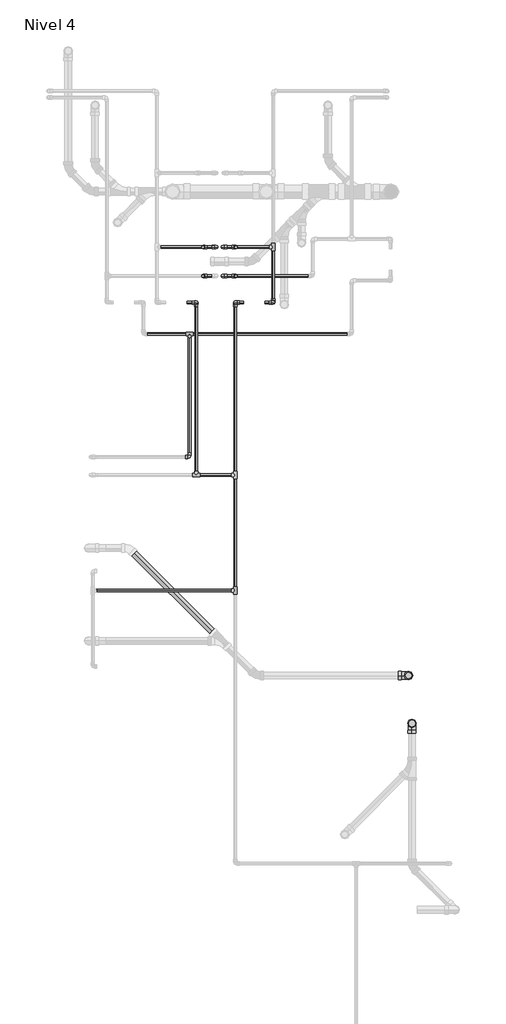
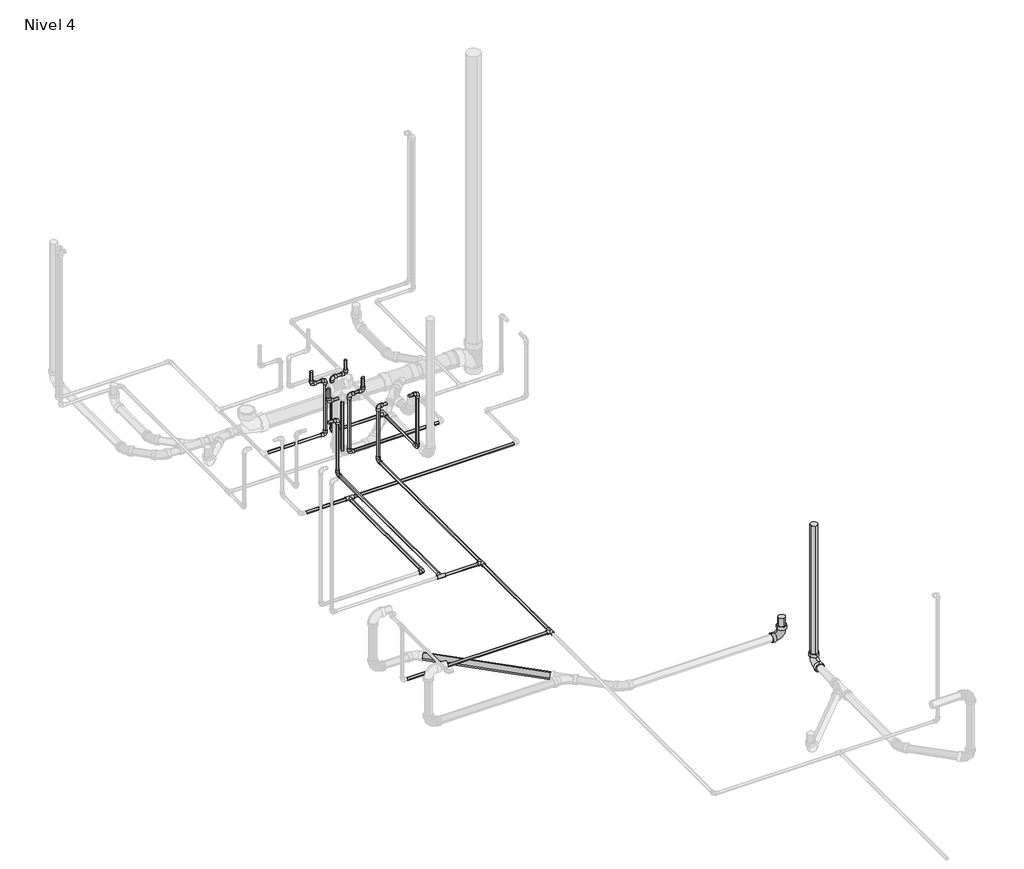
# One storey, part 7 of 9: 33 pipe segments, 24 pipe fittings.
"""IFC4 building model written with IfcOpenShell, lengths in millimetres."""

from ifc_helpers import new_model, si_unit, point, frame, frame_2d, origin, place, context, project, spatial, circle_curve, trimmed, segment, composite_curve, outline, extrude, transform, mapped, element, save
from components import pipe_fitting_ab418b84, m_codo_pvc_serie_40_9ad74631, m_codo_pvc_serie_40_ba05d404, m_codo_pvc_serie_40_dwv1_5c0ec739

model = new_model("IFC4")

# Units and contexts
model_context = context("Model", 3, world=origin())
ifc_project = project(units=[si_unit("LENGTHUNIT", "METRE", prefix="MILLI")], contexts=[model_context])

# Site, building, storey
site = spatial("IfcSite", under=ifc_project)
building = spatial("IfcBuilding", under=site)
storey = spatial("IfcBuildingStorey", under=building, Name="Nivel 4", Elevation=8100.0)

# Pipe fittings
placement = place(None, origin())
pipe_fitting_shape = pipe_fitting_ab418b84(model_context)
element("IfcPipeFitting", 1, ObjectType="M_Te - PVC - Serie 40 : Estándar", at=placement, inside=storey, context=model_context, shape_type="MappedRepresentation", body=[
    mapped(pipe_fitting_shape, transform((4584.5674476, 13135.047678, 8050.0), x_axis=(0.0, -1.0, 0.0), y_axis=(1.0, 0.0, 0.0), z_axis=(0.0, 0.0, 1.0))),
])
element("IfcPipeFitting", 2, ObjectType="M_Te - PVC - Serie 40 : Estándar", at=placement, inside=storey, context=model_context, shape_type="MappedRepresentation", body=[
    mapped(pipe_fitting_shape, transform((4263.6339186, 14079.2433012, 8050.0), x_axis=(1.0, 0.0, 0.0), y_axis=(0.0, -1.0, 0.0), z_axis=(0.0, 0.0, -1.0))),
])
element("IfcPipeFitting", 3, ObjectType="M_Te - PVC - Serie 40 : Estándar", at=placement, inside=storey, context=model_context, shape_type="MappedRepresentation", body=[
    mapped(pipe_fitting_shape, transform((4584.5674476, 14079.2433012, 8050.0), x_axis=(0.0, 1.0, 0.0), y_axis=(1.0, 0.0, 0.0), z_axis=(0.0, 0.0, -1.0))),
])
element("IfcPipeFitting", 4, ObjectType="M_Te - PVC - Serie 40 : Estándar", at=placement, inside=storey, context=model_context, shape_type="MappedRepresentation", body=[
    mapped(pipe_fitting_shape, transform((4894.5674476, 15948.3784167, 8050.0), x_axis=(0.0, -1.0, 0.0), y_axis=(1.0, 0.0, 0.0), z_axis=(0.0, 0.0, 1.0))),
])
element("IfcPipeFitting", 5, ObjectType="M_Te - PVC - Serie 40 : Estándar", at=placement, inside=storey, context=model_context, shape_type="MappedRepresentation", body=[
    mapped(pipe_fitting_shape, transform((4209.5674476, 15236.3878958, 8020.0), x_axis=(1.0, 0.0, 0.0), y_axis=(0.0, 1.0, 0.0), z_axis=(0.0, 0.0, 1.0))),
])
m_codo_pvc_serie_40_shape = m_codo_pvc_serie_40_9ad74631(model_context)
element("IfcPipeFitting", 6, ObjectType="M_Codo - PVC - Serie 40 : Estándar", at=placement, inside=storey, context=model_context, shape_type="MappedRepresentation", body=[
    mapped(m_codo_pvc_serie_40_shape, transform((4320.052369, 15948.3784167, 8500.0), x_axis=(0.0, 0.0, -1.0), y_axis=(1.0, 0.0, 0.0), z_axis=(0.0, -1.0, 0.0))),
])
element("IfcPipeFitting", 7, ObjectType="M_Codo - PVC - Serie 40 : Estándar", at=placement, inside=storey, context=model_context, shape_type="MappedRepresentation", body=[
    mapped(m_codo_pvc_serie_40_shape, transform((4428.802369, 15948.3784167, 8500.0), x_axis=(1.0, 0.0, 0.0), y_axis=(0.0, 0.0, -1.0), z_axis=(0.0, 1.0, 0.0))),
])
element("IfcPipeFitting", 8, ObjectType="M_Codo - PVC - Serie 40 : Estándar", at=placement, inside=storey, context=model_context, shape_type="MappedRepresentation", body=[
    mapped(m_codo_pvc_serie_40_shape, transform((4428.802369, 15948.3784167, 8050.0), x_axis=(0.0, 0.0, -1.0), y_axis=(-1.0, 0.0, 0.0), z_axis=(0.0, 1.0, 0.0))),
])
element("IfcPipeFitting", 9, ObjectType="M_Codo - PVC - Serie 40 : Estándar", at=placement, inside=storey, context=model_context, shape_type="MappedRepresentation", body=[
    mapped(m_codo_pvc_serie_40_shape, transform((4263.6339186, 15493.3784167, 8050.0), x_axis=(0.0, 0.0, -1.0), y_axis=(0.0, -1.0, 0.0), z_axis=(-1.0, 0.0, 0.0))),
])
element("IfcPipeFitting", 10, ObjectType="M_Codo - PVC - Serie 40 : Estándar", at=placement, inside=storey, context=model_context, shape_type="MappedRepresentation", body=[
    mapped(m_codo_pvc_serie_40_shape, transform((4584.5674476, 15493.3784167, 8050.0), x_axis=(0.0, 1.0, 0.0), y_axis=(0.0, 0.0, 1.0), z_axis=(1.0, 0.0, 0.0))),
])
element("IfcPipeFitting", 11, ObjectType="M_Codo - PVC - Serie 40 : Estándar", at=placement, inside=storey, context=model_context, shape_type="MappedRepresentation", body=[
    mapped(m_codo_pvc_serie_40_shape, transform((4584.5674476, 15493.3784167, 8500.0), x_axis=(0.0, 0.0, 1.0), y_axis=(1.0, 0.0, 0.0), z_axis=(0.0, 1.0, 0.0))),
])
element("IfcPipeFitting", 12, ObjectType="M_Codo - PVC - Serie 40 : Estándar", at=placement, inside=storey, context=model_context, shape_type="MappedRepresentation", body=[
    mapped(m_codo_pvc_serie_40_shape, transform((4894.5674476, 15493.3784167, 8500.0), x_axis=(1.0, 0.0, 0.0), y_axis=(0.0, 0.0, -1.0), z_axis=(0.0, 1.0, 0.0))),
])
element("IfcPipeFitting", 13, ObjectType="M_Codo - PVC - Serie 40 : Estándar", at=placement, inside=storey, context=model_context, shape_type="MappedRepresentation", body=[
    mapped(m_codo_pvc_serie_40_shape, transform((4894.5674476, 15493.3784167, 8050.0), x_axis=(0.0, 0.0, -1.0), y_axis=(0.0, 1.0, 0.0), z_axis=(1.0, 0.0, 0.0))),
])
element("IfcPipeFitting", 14, ObjectType="M_Codo - PVC - Serie 40 : Estándar", at=placement, inside=storey, context=model_context, shape_type="MappedRepresentation", body=[
    mapped(m_codo_pvc_serie_40_shape, transform((4263.6339186, 15493.3784167, 8500.0), x_axis=(0.0, 0.0, 1.0), y_axis=(-1.0, 0.0, 0.0), z_axis=(0.0, -1.0, 0.0))),
])
element("IfcPipeFitting", 15, ObjectType="M_Codo - PVC - Serie 40 : Estándar", at=placement, inside=storey, context=model_context, shape_type="MappedRepresentation", body=[
    mapped(m_codo_pvc_serie_40_shape, transform((4589.8538958, 15948.3784167, 8500.0), x_axis=(0.0, 0.0, -1.0), y_axis=(-1.0, 0.0, 0.0), z_axis=(0.0, 1.0, 0.0))),
])
element("IfcPipeFitting", 16, ObjectType="M_Codo - PVC - Serie 40 : Estándar", at=placement, inside=storey, context=model_context, shape_type="MappedRepresentation", body=[
    mapped(m_codo_pvc_serie_40_shape, transform((4482.3538958, 15948.3784167, 8500.0), x_axis=(-1.0, 0.0, 0.0), y_axis=(0.0, 0.0, -1.0), z_axis=(0.0, -1.0, 0.0))),
])
element("IfcPipeFitting", 17, ObjectType="M_Codo - PVC - Serie 40 : Estándar", at=placement, inside=storey, context=model_context, shape_type="MappedRepresentation", body=[
    mapped(m_codo_pvc_serie_40_shape, transform((4482.3538958, 15948.3784167, 8050.0), x_axis=(0.0, 0.0, -1.0), y_axis=(1.0, 0.0, 0.0), z_axis=(0.0, -1.0, 0.0))),
])
element("IfcPipeFitting", 18, ObjectType="M_Codo - PVC - Serie 40 : Estándar", at=placement, inside=storey, context=model_context, shape_type="MappedRepresentation", body=[
    mapped(m_codo_pvc_serie_40_shape, transform((4209.5674476, 14229.2433012, 8020.0), x_axis=(1.0, 0.0, 0.0), y_axis=(0.0, 1.0, 0.0), z_axis=(0.0, 0.0, 1.0))),
])
element("IfcPipeFitting", 19, ObjectType="M_Codo - PVC - Serie 40 : Estándar", at=placement, inside=storey, context=model_context, shape_type="MappedRepresentation", body=[
    mapped(m_codo_pvc_serie_40_shape, transform((4482.3538958, 15711.6215833, 8020.0), x_axis=(0.0, 0.0, -1.0), y_axis=(1.0, 0.0, 0.0), z_axis=(0.0, -1.0, 0.0))),
])
m_codo_pvc_serie_40_2_shape = m_codo_pvc_serie_40_ba05d404(model_context)
element("IfcPipeFitting", 20, ObjectType="M_Codo - PVC - Serie 40 : Estándar", at=placement, inside=storey, context=model_context, shape_type="MappedRepresentation", body=[
    mapped(m_codo_pvc_serie_40_2_shape, transform((4589.8538958, 15711.6215833, 8500.0), x_axis=(0.0, 0.0, -1.0), y_axis=(1.0, 0.0, 0.0), z_axis=(0.0, -1.0, 0.0))),
])
element("IfcPipeFitting", 21, ObjectType="M_Codo - PVC - Serie 40 : Estándar", at=placement, inside=storey, context=model_context, shape_type="MappedRepresentation", body=[
    mapped(m_codo_pvc_serie_40_2_shape, transform((4482.3538958, 15711.6215833, 8500.0), x_axis=(-1.0, 0.0, 0.0), y_axis=(0.0, 0.0, 1.0), z_axis=(0.0, 1.0, 0.0))),
])
element("IfcPipeFitting", 22, ObjectType="M_Codo - PVC - Serie 40 : Estándar", at=placement, inside=storey, context=model_context, shape_type="MappedRepresentation", body=[
    mapped(m_codo_pvc_serie_40_2_shape, transform((4320.052369, 15711.6215833, 8500.0), x_axis=(0.0, 0.0, -1.0), y_axis=(-1.0, 0.0, 0.0), z_axis=(0.0, 1.0, 0.0))),
])
m_codo_pvc_serie_40_dwv1_shape = m_codo_pvc_serie_40_dwv1_5c0ec739(model_context)
element("IfcPipeFitting", 23, ObjectType="M_Codo - PVC - Serie 40 - DWV1 : Estándar 2", at=placement, inside=storey, context=model_context, shape_type="MappedRepresentation", body=[
    mapped(m_codo_pvc_serie_40_dwv1_shape, transform((6034.2551231, 12044.3420457, 7950.0), x_axis=(0.0, 1.0, 0.0), y_axis=(0.0, 0.0, 1.0), z_axis=(1.0, 0.0, 0.0))),
])
element("IfcPipeFitting", 24, ObjectType="M_Codo - PVC - Serie 40 - DWV1 : Estándar 2", at=placement, inside=storey, context=model_context, shape_type="MappedRepresentation", body=[
    mapped(m_codo_pvc_serie_40_dwv1_shape, transform((6005.8120302, 12436.942368, 7950.0), x_axis=(1.0, 0.0, 0.0), y_axis=(0.0, 0.0, 1.0), z_axis=(0.0, -1.0, 0.0))),
])

# Pipe segments
element("IfcPipeSegment", 25, ObjectType="Tuberia PVC Agua Fria", at=placement, inside=storey, context=model_context, shape_type="SweptSolid", body=[
    extrude(outline(composite_curve([segment(trimmed(circle_curve(frame_2d((8050.0, 4584.5674476)), 10.31875), [point((8050.0, 4594.8861976))], [point((8060.31875, 4584.5674476))], False, "CARTESIAN"), True, "CONTINUOUS"), segment(trimmed(circle_curve(frame_2d((8050.0, 4584.5674476)), 10.31875), [point((8060.31875, 4584.5674476))], [point((8050.0, 4574.2486976))], False, "CARTESIAN"), True, "CONTINUOUS"), segment(trimmed(circle_curve(frame_2d((8050.0, 4584.5674476)), 10.31875), [point((8050.0, 4574.2486976))], [point((8039.68125, 4584.5674476))], False, "CARTESIAN"), True, "CONTINUOUS"), segment(trimmed(circle_curve(frame_2d((8050.0, 4584.5674476)), 10.31875), [point((8039.68125, 4584.5674476))], [point((8050.0, 4594.8861976))], False, "CARTESIAN"), True, "CONTINUOUS")], self_intersect=False)), frame((0.0, 13165.5078343, 0.0), z_axis=(0.0, 1.0, 0.0), x_axis=(0.0, 0.0, 1.0)), (0.0, 0.0, 1.0), 883.2753107),
])
element("IfcPipeSegment", 26, ObjectType="Tuberia PVC Agua Fria", at=placement, inside=storey, context=model_context, shape_type="SweptSolid", body=[
    extrude(outline(composite_curve([segment(trimmed(circle_curve(frame_2d((13135.047678, 8050.0)), 10.31875), [point((13145.366428, 8050.0))], [point((13135.047678, 8039.68125))], False, "CARTESIAN"), True, "CONTINUOUS"), segment(trimmed(circle_curve(frame_2d((13135.047678, 8050.0)), 10.31875), [point((13135.047678, 8039.68125))], [point((13124.728928, 8050.0))], False, "CARTESIAN"), True, "CONTINUOUS"), segment(trimmed(circle_curve(frame_2d((13135.047678, 8050.0)), 10.31875), [point((13124.728928, 8050.0))], [point((13135.047678, 8060.31875))], False, "CARTESIAN"), True, "CONTINUOUS"), segment(trimmed(circle_curve(frame_2d((13135.047678, 8050.0)), 10.31875), [point((13135.047678, 8060.31875))], [point((13145.366428, 8050.0))], False, "CARTESIAN"), True, "CONTINUOUS")], self_intersect=False)), frame((3447.9684476, 0.0, 0.0), z_axis=(1.0, 0.0, 0.0), x_axis=(0.0, 1.0, 0.0)), (0.0, 0.0, 1.0), 1106.1388437),
])
element("IfcPipeSegment", 27, ObjectType="Tuberia PVC Agua Fria", at=placement, inside=storey, context=model_context, shape_type="SweptSolid", body=[
    extrude(outline(composite_curve([segment(trimmed(circle_curve(frame_2d((15948.3784167, 8500.0)), 10.31875), [point((15938.0596667, 8500.0))], [point((15948.3784167, 8510.31875))], False, "CARTESIAN"), True, "CONTINUOUS"), segment(trimmed(circle_curve(frame_2d((15948.3784167, 8500.0)), 10.31875), [point((15948.3784167, 8510.31875))], [point((15958.6971667, 8500.0))], False, "CARTESIAN"), True, "CONTINUOUS"), segment(trimmed(circle_curve(frame_2d((15948.3784167, 8500.0)), 10.31875), [point((15958.6971667, 8500.0))], [point((15948.3784167, 8489.68125))], False, "CARTESIAN"), True, "CONTINUOUS"), segment(trimmed(circle_curve(frame_2d((15948.3784167, 8500.0)), 10.31875), [point((15948.3784167, 8489.68125))], [point((15938.0596667, 8500.0))], False, "CARTESIAN"), True, "CONTINUOUS")], self_intersect=False)), frame((4353.453369, 0.0, 0.0), z_axis=(1.0, 0.0, 0.0), x_axis=(0.0, 1.0, 0.0)), (0.0, 0.0, 1.0), 41.948),
])
element("IfcPipeSegment", 28, ObjectType="Tuberia PVC Agua Fria", at=placement, inside=storey, context=model_context, shape_type="SweptSolid", body=[
    extrude(outline(composite_curve([segment(trimmed(circle_curve(frame_2d((4320.052369, 15948.3784167)), 10.31875), [point((4330.371119, 15948.3784167))], [point((4320.052369, 15938.0596667))], False, "CARTESIAN"), True, "CONTINUOUS"), segment(trimmed(circle_curve(frame_2d((4320.052369, 15948.3784167)), 10.31875), [point((4320.052369, 15938.0596667))], [point((4309.733619, 15948.3784167))], False, "CARTESIAN"), True, "CONTINUOUS"), segment(trimmed(circle_curve(frame_2d((4320.052369, 15948.3784167)), 10.31875), [point((4309.733619, 15948.3784167))], [point((4320.052369, 15958.6971667))], False, "CARTESIAN"), True, "CONTINUOUS"), segment(trimmed(circle_curve(frame_2d((4320.052369, 15948.3784167)), 10.31875), [point((4320.052369, 15958.6971667))], [point((4330.371119, 15948.3784167))], False, "CARTESIAN"), True, "CONTINUOUS")], self_intersect=False)), frame((0.0, 0.0, 8533.401), z_axis=(0.0, 0.0, 1.0), x_axis=(1.0, 0.0, 0.0)), (0.0, 0.0, 1.0), 74.0983614),
])
element("IfcPipeSegment", 29, ObjectType="Tuberia PVC Agua Fria", at=placement, inside=storey, context=model_context, shape_type="SweptSolid", body=[
    extrude(outline(composite_curve([segment(trimmed(circle_curve(frame_2d((15948.3784167, 8050.0)), 10.31875), [point((15958.6971667, 8050.0))], [point((15948.3784167, 8039.68125))], False, "CARTESIAN"), True, "CONTINUOUS"), segment(trimmed(circle_curve(frame_2d((15948.3784167, 8050.0)), 10.31875), [point((15948.3784167, 8039.68125))], [point((15938.0596667, 8050.0))], False, "CARTESIAN"), True, "CONTINUOUS"), segment(trimmed(circle_curve(frame_2d((15948.3784167, 8050.0)), 10.31875), [point((15938.0596667, 8050.0))], [point((15948.3784167, 8060.31875))], False, "CARTESIAN"), True, "CONTINUOUS"), segment(trimmed(circle_curve(frame_2d((15948.3784167, 8050.0)), 10.31875), [point((15948.3784167, 8060.31875))], [point((15958.6971667, 8050.0))], False, "CARTESIAN"), True, "CONTINUOUS")], self_intersect=False)), frame((3970.5125253, 0.0, 0.0), z_axis=(1.0, 0.0, 0.0), x_axis=(0.0, 1.0, 0.0)), (0.0, 0.0, 1.0), 424.8888438),
])
element("IfcPipeSegment", 30, ObjectType="Tuberia PVC Agua Fria", at=placement, inside=storey, context=model_context, shape_type="SweptSolid", body=[
    extrude(outline(composite_curve([segment(trimmed(circle_curve(frame_2d((4428.802369, 15948.3784167)), 10.31875), [point((4439.121119, 15948.3784167))], [point((4428.802369, 15938.0596667))], False, "CARTESIAN"), True, "CONTINUOUS"), segment(trimmed(circle_curve(frame_2d((4428.802369, 15948.3784167)), 10.31875), [point((4428.802369, 15938.0596667))], [point((4418.483619, 15948.3784167))], False, "CARTESIAN"), True, "CONTINUOUS"), segment(trimmed(circle_curve(frame_2d((4428.802369, 15948.3784167)), 10.31875), [point((4418.483619, 15948.3784167))], [point((4428.802369, 15958.6971667))], False, "CARTESIAN"), True, "CONTINUOUS"), segment(trimmed(circle_curve(frame_2d((4428.802369, 15948.3784167)), 10.31875), [point((4428.802369, 15958.6971667))], [point((4439.121119, 15948.3784167))], False, "CARTESIAN"), True, "CONTINUOUS")], self_intersect=False)), frame((0.0, 0.0, 8083.401), z_axis=(0.0, 0.0, 1.0), x_axis=(1.0, 0.0, 0.0)), (0.0, 0.0, 1.0), 383.198),
])
element("IfcPipeSegment", 31, ObjectType="Tuberia PVC Agua Fria", at=placement, inside=storey, context=model_context, shape_type="SweptSolid", body=[
    extrude(outline(composite_curve([segment(trimmed(circle_curve(frame_2d((8050.0, 4263.6339186)), 10.31875), [point((8050.0, 4273.9526686))], [point((8060.31875, 4263.6339186))], False, "CARTESIAN"), True, "CONTINUOUS"), segment(trimmed(circle_curve(frame_2d((8050.0, 4263.6339186)), 10.31875), [point((8060.31875, 4263.6339186))], [point((8050.0, 4253.3151686))], False, "CARTESIAN"), True, "CONTINUOUS"), segment(trimmed(circle_curve(frame_2d((8050.0, 4263.6339186)), 10.31875), [point((8050.0, 4253.3151686))], [point((8039.68125, 4263.6339186))], False, "CARTESIAN"), True, "CONTINUOUS"), segment(trimmed(circle_curve(frame_2d((8050.0, 4263.6339186)), 10.31875), [point((8039.68125, 4263.6339186))], [point((8050.0, 4273.9526686))], False, "CARTESIAN"), True, "CONTINUOUS")], self_intersect=False)), frame((0.0, 14109.7034574, 0.0), z_axis=(0.0, 1.0, 0.0), x_axis=(0.0, 0.0, 1.0)), (0.0, 0.0, 1.0), 1350.2739592),
])
element("IfcPipeSegment", 32, ObjectType="Tuberia PVC Agua Fria", at=placement, inside=storey, context=model_context, shape_type="SweptSolid", body=[
    extrude(outline(composite_curve([segment(trimmed(circle_curve(frame_2d((4263.6339186, 15493.3784167)), 10.31875), [point((4273.9526686, 15493.3784167))], [point((4263.6339186, 15483.0596667))], False, "CARTESIAN"), True, "CONTINUOUS"), segment(trimmed(circle_curve(frame_2d((4263.6339186, 15493.3784167)), 10.31875), [point((4263.6339186, 15483.0596667))], [point((4253.3151686, 15493.3784167))], False, "CARTESIAN"), True, "CONTINUOUS"), segment(trimmed(circle_curve(frame_2d((4263.6339186, 15493.3784167)), 10.31875), [point((4253.3151686, 15493.3784167))], [point((4263.6339186, 15503.6971667))], False, "CARTESIAN"), True, "CONTINUOUS"), segment(trimmed(circle_curve(frame_2d((4263.6339186, 15493.3784167)), 10.31875), [point((4263.6339186, 15503.6971667))], [point((4273.9526686, 15493.3784167))], False, "CARTESIAN"), True, "CONTINUOUS")], self_intersect=False)), frame((0.0, 0.0, 8083.401), z_axis=(0.0, 0.0, 1.0), x_axis=(1.0, 0.0, 0.0)), (0.0, 0.0, 1.0), 383.198),
])
element("IfcPipeSegment", 33, ObjectType="Tuberia PVC Agua Fria", at=placement, inside=storey, context=model_context, shape_type="SweptSolid", body=[
    extrude(outline(composite_curve([segment(trimmed(circle_curve(frame_2d((14079.2433012, 8050.0)), 10.31875), [point((14089.5620512, 8050.0))], [point((14079.2433012, 8039.68125))], False, "CARTESIAN"), True, "CONTINUOUS"), segment(trimmed(circle_curve(frame_2d((14079.2433012, 8050.0)), 10.31875), [point((14079.2433012, 8039.68125))], [point((14068.9245512, 8050.0))], False, "CARTESIAN"), True, "CONTINUOUS"), segment(trimmed(circle_curve(frame_2d((14079.2433012, 8050.0)), 10.31875), [point((14068.9245512, 8050.0))], [point((14079.2433012, 8060.31875))], False, "CARTESIAN"), True, "CONTINUOUS"), segment(trimmed(circle_curve(frame_2d((14079.2433012, 8050.0)), 10.31875), [point((14079.2433012, 8060.31875))], [point((14089.5620512, 8050.0))], False, "CARTESIAN"), True, "CONTINUOUS")], self_intersect=False)), frame((4294.0940748, 0.0, 0.0), z_axis=(1.0, 0.0, 0.0), x_axis=(0.0, 1.0, 0.0)), (0.0, 0.0, 1.0), 260.0132166),
])
element("IfcPipeSegment", 34, ObjectType="Tuberia PVC Agua Fria", at=placement, inside=storey, context=model_context, shape_type="SweptSolid", body=[
    extrude(outline(composite_curve([segment(trimmed(circle_curve(frame_2d((15493.3784167, 8500.0)), 10.31875), [point((15483.0596667, 8500.0))], [point((15493.3784167, 8510.31875))], False, "CARTESIAN"), True, "CONTINUOUS"), segment(trimmed(circle_curve(frame_2d((15493.3784167, 8500.0)), 10.31875), [point((15493.3784167, 8510.31875))], [point((15503.6971667, 8500.0))], False, "CARTESIAN"), True, "CONTINUOUS"), segment(trimmed(circle_curve(frame_2d((15493.3784167, 8500.0)), 10.31875), [point((15503.6971667, 8500.0))], [point((15493.3784167, 8489.68125))], False, "CARTESIAN"), True, "CONTINUOUS"), segment(trimmed(circle_curve(frame_2d((15493.3784167, 8500.0)), 10.31875), [point((15493.3784167, 8489.68125))], [point((15483.0596667, 8500.0))], False, "CARTESIAN"), True, "CONTINUOUS")], self_intersect=False)), frame((4190.8431438, 0.0, 0.0), z_axis=(1.0, 0.0, 0.0), x_axis=(0.0, 1.0, 0.0)), (0.0, 0.0, 1.0), 39.3897748),
])
element("IfcPipeSegment", 35, ObjectType="Tuberia PVC Agua Fria", at=placement, inside=storey, context=model_context, shape_type="SweptSolid", body=[
    extrude(outline(composite_curve([segment(trimmed(circle_curve(frame_2d((8050.0, 4584.5674476)), 10.31875), [point((8050.0, 4594.8861976))], [point((8060.31875, 4584.5674476))], False, "CARTESIAN"), True, "CONTINUOUS"), segment(trimmed(circle_curve(frame_2d((8050.0, 4584.5674476)), 10.31875), [point((8060.31875, 4584.5674476))], [point((8050.0, 4574.2486976))], False, "CARTESIAN"), True, "CONTINUOUS"), segment(trimmed(circle_curve(frame_2d((8050.0, 4584.5674476)), 10.31875), [point((8050.0, 4574.2486976))], [point((8039.68125, 4584.5674476))], False, "CARTESIAN"), True, "CONTINUOUS"), segment(trimmed(circle_curve(frame_2d((8050.0, 4584.5674476)), 10.31875), [point((8039.68125, 4584.5674476))], [point((8050.0, 4594.8861976))], False, "CARTESIAN"), True, "CONTINUOUS")], self_intersect=False)), frame((0.0, 14109.7034574, 0.0), z_axis=(0.0, 1.0, 0.0), x_axis=(0.0, 0.0, 1.0)), (0.0, 0.0, 1.0), 1350.2739592),
])
element("IfcPipeSegment", 36, ObjectType="Tuberia PVC Agua Fria", at=placement, inside=storey, context=model_context, shape_type="SweptSolid", body=[
    extrude(outline(composite_curve([segment(trimmed(circle_curve(frame_2d((15493.3784167, 8500.0)), 10.31875), [point((15483.0596667, 8500.0))], [point((15493.3784167, 8510.31875))], False, "CARTESIAN"), True, "CONTINUOUS"), segment(trimmed(circle_curve(frame_2d((15493.3784167, 8500.0)), 10.31875), [point((15493.3784167, 8510.31875))], [point((15503.6971667, 8500.0))], False, "CARTESIAN"), True, "CONTINUOUS"), segment(trimmed(circle_curve(frame_2d((15493.3784167, 8500.0)), 10.31875), [point((15503.6971667, 8500.0))], [point((15493.3784167, 8489.68125))], False, "CARTESIAN"), True, "CONTINUOUS"), segment(trimmed(circle_curve(frame_2d((15493.3784167, 8500.0)), 10.31875), [point((15493.3784167, 8489.68125))], [point((15483.0596667, 8500.0))], False, "CARTESIAN"), True, "CONTINUOUS")], self_intersect=False)), frame((4828.3535926, 0.0, 0.0), z_axis=(1.0, 0.0, 0.0), x_axis=(0.0, 1.0, 0.0)), (0.0, 0.0, 1.0), 32.812855),
])
element("IfcPipeSegment", 37, ObjectType="Tuberia PVC Agua Fria", at=placement, inside=storey, context=model_context, shape_type="SweptSolid", body=[
    extrude(outline(composite_curve([segment(trimmed(circle_curve(frame_2d((4584.5674476, 15493.3784167)), 10.31875), [point((4574.2486976, 15493.3784167))], [point((4584.5674476, 15503.6971667))], False, "CARTESIAN"), True, "CONTINUOUS"), segment(trimmed(circle_curve(frame_2d((4584.5674476, 15493.3784167)), 10.31875), [point((4584.5674476, 15503.6971667))], [point((4594.8861976, 15493.3784167))], False, "CARTESIAN"), True, "CONTINUOUS"), segment(trimmed(circle_curve(frame_2d((4584.5674476, 15493.3784167)), 10.31875), [point((4594.8861976, 15493.3784167))], [point((4584.5674476, 15483.0596667))], False, "CARTESIAN"), True, "CONTINUOUS"), segment(trimmed(circle_curve(frame_2d((4584.5674476, 15493.3784167)), 10.31875), [point((4584.5674476, 15483.0596667))], [point((4574.2486976, 15493.3784167))], False, "CARTESIAN"), True, "CONTINUOUS")], self_intersect=False)), frame((0.0, 0.0, 8083.401), z_axis=(0.0, 0.0, 1.0), x_axis=(1.0, 0.0, 0.0)), (0.0, 0.0, 1.0), 383.198),
])
element("IfcPipeSegment", 38, ObjectType="Tuberia PVC Agua Fria", at=placement, inside=storey, context=model_context, shape_type="SweptSolid", body=[
    extrude(outline(composite_curve([segment(trimmed(circle_curve(frame_2d((4894.5674476, 15493.3784167)), 10.31875), [point((4904.8861976, 15493.3784167))], [point((4894.5674476, 15483.0596667))], False, "CARTESIAN"), True, "CONTINUOUS"), segment(trimmed(circle_curve(frame_2d((4894.5674476, 15493.3784167)), 10.31875), [point((4894.5674476, 15483.0596667))], [point((4884.2486976, 15493.3784167))], False, "CARTESIAN"), True, "CONTINUOUS"), segment(trimmed(circle_curve(frame_2d((4894.5674476, 15493.3784167)), 10.31875), [point((4884.2486976, 15493.3784167))], [point((4894.5674476, 15503.6971667))], False, "CARTESIAN"), True, "CONTINUOUS"), segment(trimmed(circle_curve(frame_2d((4894.5674476, 15493.3784167)), 10.31875), [point((4894.5674476, 15503.6971667))], [point((4904.8861976, 15493.3784167))], False, "CARTESIAN"), True, "CONTINUOUS")], self_intersect=False)), frame((0.0, 0.0, 8083.401), z_axis=(0.0, 0.0, 1.0), x_axis=(1.0, 0.0, 0.0)), (0.0, 0.0, 1.0), 383.198),
])
element("IfcPipeSegment", 39, ObjectType="Tuberia PVC Agua Fria", at=placement, inside=storey, context=model_context, shape_type="SweptSolid", body=[
    extrude(outline(composite_curve([segment(trimmed(circle_curve(frame_2d((15948.3784167, 8500.0)), 10.31875), [point((15958.6971667, 8500.0))], [point((15948.3784167, 8489.68125))], False, "CARTESIAN"), True, "CONTINUOUS"), segment(trimmed(circle_curve(frame_2d((15948.3784167, 8500.0)), 10.31875), [point((15948.3784167, 8489.68125))], [point((15938.0596667, 8500.0))], False, "CARTESIAN"), True, "CONTINUOUS"), segment(trimmed(circle_curve(frame_2d((15948.3784167, 8500.0)), 10.31875), [point((15938.0596667, 8500.0))], [point((15948.3784167, 8510.31875))], False, "CARTESIAN"), True, "CONTINUOUS"), segment(trimmed(circle_curve(frame_2d((15948.3784167, 8500.0)), 10.31875), [point((15948.3784167, 8510.31875))], [point((15958.6971667, 8500.0))], False, "CARTESIAN"), True, "CONTINUOUS")], self_intersect=False)), frame((4515.7548958, 0.0, 0.0), z_axis=(1.0, 0.0, 0.0), x_axis=(0.0, 1.0, 0.0)), (0.0, 0.0, 1.0), 40.698),
])
element("IfcPipeSegment", 40, ObjectType="Tuberia PVC Agua Fria", at=placement, inside=storey, context=model_context, shape_type="SweptSolid", body=[
    extrude(outline(composite_curve([segment(trimmed(circle_curve(frame_2d((4589.8538958, 15948.3784167)), 10.31875), [point((4600.1726458, 15948.3784167))], [point((4589.8538958, 15938.0596667))], False, "CARTESIAN"), True, "CONTINUOUS"), segment(trimmed(circle_curve(frame_2d((4589.8538958, 15948.3784167)), 10.31875), [point((4589.8538958, 15938.0596667))], [point((4579.5351458, 15948.3784167))], False, "CARTESIAN"), True, "CONTINUOUS"), segment(trimmed(circle_curve(frame_2d((4589.8538958, 15948.3784167)), 10.31875), [point((4579.5351458, 15948.3784167))], [point((4589.8538958, 15958.6971667))], False, "CARTESIAN"), True, "CONTINUOUS"), segment(trimmed(circle_curve(frame_2d((4589.8538958, 15948.3784167)), 10.31875), [point((4589.8538958, 15958.6971667))], [point((4600.1726458, 15948.3784167))], False, "CARTESIAN"), True, "CONTINUOUS")], self_intersect=False)), frame((0.0, 0.0, 8533.401), z_axis=(0.0, 0.0, 1.0), x_axis=(1.0, 0.0, 0.0)), (0.0, 0.0, 1.0), 74.0983614),
])
element("IfcPipeSegment", 41, ObjectType="Tuberia PVC Agua Fria", at=placement, inside=storey, context=model_context, shape_type="SweptSolid", body=[
    extrude(outline(composite_curve([segment(trimmed(circle_curve(frame_2d((15948.3784167, 8050.0)), 10.31875), [point((15938.0596667, 8050.0))], [point((15948.3784167, 8060.31875))], False, "CARTESIAN"), True, "CONTINUOUS"), segment(trimmed(circle_curve(frame_2d((15948.3784167, 8050.0)), 10.31875), [point((15948.3784167, 8060.31875))], [point((15958.6971667, 8050.0))], False, "CARTESIAN"), True, "CONTINUOUS"), segment(trimmed(circle_curve(frame_2d((15948.3784167, 8050.0)), 10.31875), [point((15958.6971667, 8050.0))], [point((15948.3784167, 8039.68125))], False, "CARTESIAN"), True, "CONTINUOUS"), segment(trimmed(circle_curve(frame_2d((15948.3784167, 8050.0)), 10.31875), [point((15948.3784167, 8039.68125))], [point((15938.0596667, 8050.0))], False, "CARTESIAN"), True, "CONTINUOUS")], self_intersect=False)), frame((4515.7548958, 0.0, 0.0), z_axis=(1.0, 0.0, 0.0), x_axis=(0.0, 1.0, 0.0)), (0.0, 0.0, 1.0), 348.3523956),
])
element("IfcPipeSegment", 42, ObjectType="Tuberia PVC Agua Fria", at=placement, inside=storey, context=model_context, shape_type="SweptSolid", body=[
    extrude(outline(composite_curve([segment(trimmed(circle_curve(frame_2d((4482.3538958, 15948.3784167)), 10.31875), [point((4492.6726458, 15948.3784167))], [point((4482.3538958, 15938.0596667))], False, "CARTESIAN"), True, "CONTINUOUS"), segment(trimmed(circle_curve(frame_2d((4482.3538958, 15948.3784167)), 10.31875), [point((4482.3538958, 15938.0596667))], [point((4472.0351458, 15948.3784167))], False, "CARTESIAN"), True, "CONTINUOUS"), segment(trimmed(circle_curve(frame_2d((4482.3538958, 15948.3784167)), 10.31875), [point((4472.0351458, 15948.3784167))], [point((4482.3538958, 15958.6971667))], False, "CARTESIAN"), True, "CONTINUOUS"), segment(trimmed(circle_curve(frame_2d((4482.3538958, 15948.3784167)), 10.31875), [point((4482.3538958, 15958.6971667))], [point((4492.6726458, 15948.3784167))], False, "CARTESIAN"), True, "CONTINUOUS")], self_intersect=False)), frame((0.0, 0.0, 8083.401), z_axis=(0.0, 0.0, 1.0), x_axis=(1.0, 0.0, 0.0)), (0.0, 0.0, 1.0), 383.198),
])
element("IfcPipeSegment", 43, ObjectType="Tuberia PVC Agua Fria", at=placement, inside=storey, context=model_context, shape_type="SweptSolid", body=[
    extrude(outline(composite_curve([segment(trimmed(circle_curve(frame_2d((8050.0, 4894.5674476)), 10.31875), [point((8050.0, 4904.8861976))], [point((8060.31875, 4894.5674476))], False, "CARTESIAN"), True, "CONTINUOUS"), segment(trimmed(circle_curve(frame_2d((8050.0, 4894.5674476)), 10.31875), [point((8060.31875, 4894.5674476))], [point((8050.0, 4884.2486976))], False, "CARTESIAN"), True, "CONTINUOUS"), segment(trimmed(circle_curve(frame_2d((8050.0, 4894.5674476)), 10.31875), [point((8050.0, 4884.2486976))], [point((8039.68125, 4894.5674476))], False, "CARTESIAN"), True, "CONTINUOUS"), segment(trimmed(circle_curve(frame_2d((8050.0, 4894.5674476)), 10.31875), [point((8039.68125, 4894.5674476))], [point((8050.0, 4904.8861976))], False, "CARTESIAN"), True, "CONTINUOUS")], self_intersect=False)), frame((0.0, 15526.7794167, 0.0), z_axis=(0.0, 1.0, 0.0), x_axis=(0.0, 0.0, 1.0)), (0.0, 0.0, 1.0), 391.1388437),
])
element("IfcPipeSegment", 44, ObjectType="Tuberia PVC Agua Fria", at=placement, inside=storey, context=model_context, shape_type="SweptSolid", body=[
    extrude(outline(composite_curve([segment(trimmed(circle_curve(frame_2d((15493.3784167, 8500.0)), 10.31875), [point((15483.0596667, 8500.0))], [point((15493.3784167, 8510.31875))], False, "CARTESIAN"), True, "CONTINUOUS"), segment(trimmed(circle_curve(frame_2d((15493.3784167, 8500.0)), 10.31875), [point((15493.3784167, 8510.31875))], [point((15503.6971667, 8500.0))], False, "CARTESIAN"), True, "CONTINUOUS"), segment(trimmed(circle_curve(frame_2d((15493.3784167, 8500.0)), 10.31875), [point((15503.6971667, 8500.0))], [point((15493.3784167, 8489.68125))], False, "CARTESIAN"), True, "CONTINUOUS"), segment(trimmed(circle_curve(frame_2d((15493.3784167, 8500.0)), 10.31875), [point((15493.3784167, 8489.68125))], [point((15483.0596667, 8500.0))], False, "CARTESIAN"), True, "CONTINUOUS")], self_intersect=False)), frame((4617.9684476, 0.0, 0.0), z_axis=(1.0, 0.0, 0.0), x_axis=(0.0, 1.0, 0.0)), (0.0, 0.0, 1.0), 32.385145),
])
element("IfcPipeSegment", 45, ObjectType="Tuberia PVC Agua Caliente", at=placement, inside=storey, context=model_context, shape_type="SweptSolid", body=[
    extrude(outline(composite_curve([segment(trimmed(circle_curve(frame_2d((8020.0, 4209.5674476)), 10.31875), [point((8020.0, 4219.8861976))], [point((8030.31875, 4209.5674476))], False, "CARTESIAN"), True, "CONTINUOUS"), segment(trimmed(circle_curve(frame_2d((8020.0, 4209.5674476)), 10.31875), [point((8030.31875, 4209.5674476))], [point((8020.0, 4199.2486976))], False, "CARTESIAN"), True, "CONTINUOUS"), segment(trimmed(circle_curve(frame_2d((8020.0, 4209.5674476)), 10.31875), [point((8020.0, 4199.2486976))], [point((8009.68125, 4209.5674476))], False, "CARTESIAN"), True, "CONTINUOUS"), segment(trimmed(circle_curve(frame_2d((8020.0, 4209.5674476)), 10.31875), [point((8009.68125, 4209.5674476))], [point((8020.0, 4219.8861976))], False, "CARTESIAN"), True, "CONTINUOUS")], self_intersect=False)), frame((0.0, 14262.6443012, 0.0), z_axis=(0.0, 1.0, 0.0), x_axis=(0.0, 0.0, 1.0)), (0.0, 0.0, 1.0), 943.2834383),
])
element("IfcPipeSegment", 46, ObjectType="Tuberia PVC Agua Caliente", at=placement, inside=storey, context=model_context, shape_type="SweptSolid", body=[
    extrude(outline(composite_curve([segment(trimmed(circle_curve(frame_2d((15236.3878958, 8020.0)), 10.31875), [point((15246.7066458, 8020.0))], [point((15236.3878958, 8009.68125))], False, "CARTESIAN"), True, "CONTINUOUS"), segment(trimmed(circle_curve(frame_2d((15236.3878958, 8020.0)), 10.31875), [point((15236.3878958, 8009.68125))], [point((15226.0691458, 8020.0))], False, "CARTESIAN"), True, "CONTINUOUS"), segment(trimmed(circle_curve(frame_2d((15236.3878958, 8020.0)), 10.31875), [point((15226.0691458, 8020.0))], [point((15236.3878958, 8030.31875))], False, "CARTESIAN"), True, "CONTINUOUS"), segment(trimmed(circle_curve(frame_2d((15236.3878958, 8020.0)), 10.31875), [point((15236.3878958, 8030.31875))], [point((15246.7066458, 8020.0))], False, "CARTESIAN"), True, "CONTINUOUS")], self_intersect=False)), frame((3862.9684476, 0.0, 0.0), z_axis=(1.0, 0.0, 0.0), x_axis=(0.0, 1.0, 0.0)), (0.0, 0.0, 1.0), 316.1388438),
])
element("IfcPipeSegment", 47, ObjectType="Tuberia PVC Agua Caliente", at=placement, inside=storey, context=model_context, shape_type="SweptSolid", body=[
    extrude(outline(composite_curve([segment(trimmed(circle_curve(frame_2d((15236.3878958, 8020.0)), 10.31875), [point((15226.0691458, 8020.0))], [point((15236.3878958, 8030.31875))], False, "CARTESIAN"), True, "CONTINUOUS"), segment(trimmed(circle_curve(frame_2d((15236.3878958, 8020.0)), 10.31875), [point((15236.3878958, 8030.31875))], [point((15246.7066458, 8020.0))], False, "CARTESIAN"), True, "CONTINUOUS"), segment(trimmed(circle_curve(frame_2d((15236.3878958, 8020.0)), 10.31875), [point((15246.7066458, 8020.0))], [point((15236.3878958, 8009.68125))], False, "CARTESIAN"), True, "CONTINUOUS"), segment(trimmed(circle_curve(frame_2d((15236.3878958, 8020.0)), 10.31875), [point((15236.3878958, 8009.68125))], [point((15226.0691458, 8020.0))], False, "CARTESIAN"), True, "CONTINUOUS")], self_intersect=False)), frame((4240.0276039, 0.0, 0.0), z_axis=(1.0, 0.0, 0.0), x_axis=(0.0, 1.0, 0.0)), (0.0, 0.0, 1.0), 1266.599),
])
element("IfcPipeSegment", 48, ObjectType="Tuberia PVC Agua Caliente", at=placement, inside=storey, context=model_context, shape_type="SweptSolid", body=[
    extrude(outline(composite_curve([segment(trimmed(circle_curve(frame_2d((15711.6215833, 8500.0)), 10.31875), [point((15721.9403333, 8500.0))], [point((15711.6215833, 8489.68125))], False, "CARTESIAN"), True, "CONTINUOUS"), segment(trimmed(circle_curve(frame_2d((15711.6215833, 8500.0)), 10.31875), [point((15711.6215833, 8489.68125))], [point((15701.3028333, 8500.0))], False, "CARTESIAN"), True, "CONTINUOUS"), segment(trimmed(circle_curve(frame_2d((15711.6215833, 8500.0)), 10.31875), [point((15701.3028333, 8500.0))], [point((15711.6215833, 8510.31875))], False, "CARTESIAN"), True, "CONTINUOUS"), segment(trimmed(circle_curve(frame_2d((15711.6215833, 8500.0)), 10.31875), [point((15711.6215833, 8510.31875))], [point((15721.9403333, 8500.0))], False, "CARTESIAN"), True, "CONTINUOUS")], self_intersect=False)), frame((4515.7548958, 0.0, 0.0), z_axis=(1.0, 0.0, 0.0), x_axis=(0.0, 1.0, 0.0)), (0.0, 0.0, 1.0), 40.698),
])
element("IfcPipeSegment", 49, ObjectType="Tuberia PVC Agua Caliente", at=placement, inside=storey, context=model_context, shape_type="SweptSolid", body=[
    extrude(outline(composite_curve([segment(trimmed(circle_curve(frame_2d((4589.8538958, 15711.6215833)), 10.31875), [point((4600.1726458, 15711.6215833))], [point((4589.8538958, 15701.3028333))], False, "CARTESIAN"), True, "CONTINUOUS"), segment(trimmed(circle_curve(frame_2d((4589.8538958, 15711.6215833)), 10.31875), [point((4589.8538958, 15701.3028333))], [point((4579.5351458, 15711.6215833))], False, "CARTESIAN"), True, "CONTINUOUS"), segment(trimmed(circle_curve(frame_2d((4589.8538958, 15711.6215833)), 10.31875), [point((4579.5351458, 15711.6215833))], [point((4589.8538958, 15721.9403333))], False, "CARTESIAN"), True, "CONTINUOUS"), segment(trimmed(circle_curve(frame_2d((4589.8538958, 15711.6215833)), 10.31875), [point((4589.8538958, 15721.9403333))], [point((4600.1726458, 15711.6215833))], False, "CARTESIAN"), True, "CONTINUOUS")], self_intersect=False)), frame((0.0, 0.0, 8533.401), z_axis=(0.0, 0.0, 1.0), x_axis=(1.0, 0.0, 0.0)), (0.0, 0.0, 1.0), 74.0983614),
])
element("IfcPipeSegment", 50, ObjectType="Tuberia PVC Agua Caliente", at=placement, inside=storey, context=model_context, shape_type="SweptSolid", body=[
    extrude(outline(composite_curve([segment(trimmed(circle_curve(frame_2d((15711.6215833, 8020.0)), 10.31875), [point((15721.9403333, 8020.0))], [point((15711.6215833, 8009.68125))], False, "CARTESIAN"), True, "CONTINUOUS"), segment(trimmed(circle_curve(frame_2d((15711.6215833, 8020.0)), 10.31875), [point((15711.6215833, 8009.68125))], [point((15701.3028333, 8020.0))], False, "CARTESIAN"), True, "CONTINUOUS"), segment(trimmed(circle_curve(frame_2d((15711.6215833, 8020.0)), 10.31875), [point((15701.3028333, 8020.0))], [point((15711.6215833, 8030.31875))], False, "CARTESIAN"), True, "CONTINUOUS"), segment(trimmed(circle_curve(frame_2d((15711.6215833, 8020.0)), 10.31875), [point((15711.6215833, 8030.31875))], [point((15721.9403333, 8020.0))], False, "CARTESIAN"), True, "CONTINUOUS")], self_intersect=False)), frame((4515.7548958, 0.0, 0.0), z_axis=(1.0, 0.0, 0.0), x_axis=(0.0, 1.0, 0.0)), (0.0, 0.0, 1.0), 670.4115519),
])
element("IfcPipeSegment", 51, ObjectType="Tuberia PVC Agua Caliente", at=placement, inside=storey, context=model_context, shape_type="SweptSolid", body=[
    extrude(outline(composite_curve([segment(trimmed(circle_curve(frame_2d((4482.3538958, 15711.6215833)), 10.31875), [point((4492.6726458, 15711.6215833))], [point((4482.3538958, 15701.3028333))], False, "CARTESIAN"), True, "CONTINUOUS"), segment(trimmed(circle_curve(frame_2d((4482.3538958, 15711.6215833)), 10.31875), [point((4482.3538958, 15701.3028333))], [point((4472.0351458, 15711.6215833))], False, "CARTESIAN"), True, "CONTINUOUS"), segment(trimmed(circle_curve(frame_2d((4482.3538958, 15711.6215833)), 10.31875), [point((4472.0351458, 15711.6215833))], [point((4482.3538958, 15721.9403333))], False, "CARTESIAN"), True, "CONTINUOUS"), segment(trimmed(circle_curve(frame_2d((4482.3538958, 15711.6215833)), 10.31875), [point((4482.3538958, 15721.9403333))], [point((4492.6726458, 15711.6215833))], False, "CARTESIAN"), True, "CONTINUOUS")], self_intersect=False)), frame((0.0, 0.0, 8053.401), z_axis=(0.0, 0.0, 1.0), x_axis=(1.0, 0.0, 0.0)), (0.0, 0.0, 1.0), 413.198),
])
element("IfcPipeSegment", 52, ObjectType="Tuberia PVC Agua Caliente", at=placement, inside=storey, context=model_context, shape_type="SweptSolid", body=[
    extrude(outline(composite_curve([segment(trimmed(circle_curve(frame_2d((15711.6215833, 8500.0)), 10.31875), [point((15701.3028333, 8500.0))], [point((15711.6215833, 8510.31875))], False, "CARTESIAN"), True, "CONTINUOUS"), segment(trimmed(circle_curve(frame_2d((15711.6215833, 8500.0)), 10.31875), [point((15711.6215833, 8510.31875))], [point((15721.9403333, 8500.0))], False, "CARTESIAN"), True, "CONTINUOUS"), segment(trimmed(circle_curve(frame_2d((15711.6215833, 8500.0)), 10.31875), [point((15721.9403333, 8500.0))], [point((15711.6215833, 8489.68125))], False, "CARTESIAN"), True, "CONTINUOUS"), segment(trimmed(circle_curve(frame_2d((15711.6215833, 8500.0)), 10.31875), [point((15711.6215833, 8489.68125))], [point((15701.3028333, 8500.0))], False, "CARTESIAN"), True, "CONTINUOUS")], self_intersect=False)), frame((4353.453369, 0.0, 0.0), z_axis=(1.0, 0.0, 0.0), x_axis=(0.0, 1.0, 0.0)), (0.0, 0.0, 1.0), 41.948),
])
element("IfcPipeSegment", 53, ObjectType="Tuberia PVC Agua Caliente", at=placement, inside=storey, context=model_context, shape_type="SweptSolid", body=[
    extrude(outline(composite_curve([segment(trimmed(circle_curve(frame_2d((4320.052369, 15711.6215833)), 10.31875), [point((4330.371119, 15711.6215833))], [point((4320.052369, 15701.3028333))], False, "CARTESIAN"), True, "CONTINUOUS"), segment(trimmed(circle_curve(frame_2d((4320.052369, 15711.6215833)), 10.31875), [point((4320.052369, 15701.3028333))], [point((4309.733619, 15711.6215833))], False, "CARTESIAN"), True, "CONTINUOUS"), segment(trimmed(circle_curve(frame_2d((4320.052369, 15711.6215833)), 10.31875), [point((4309.733619, 15711.6215833))], [point((4320.052369, 15721.9403333))], False, "CARTESIAN"), True, "CONTINUOUS"), segment(trimmed(circle_curve(frame_2d((4320.052369, 15711.6215833)), 10.31875), [point((4320.052369, 15721.9403333))], [point((4330.371119, 15711.6215833))], False, "CARTESIAN"), True, "CONTINUOUS")], self_intersect=False)), frame((0.0, 0.0, 8533.401), z_axis=(0.0, 0.0, 1.0), x_axis=(1.0, 0.0, 0.0)), (0.0, 0.0, 1.0), 74.0983614),
])
element("IfcPipeSegment", 54, ObjectType="Tuberia PVC Agua Caliente", at=placement, inside=storey, context=model_context, shape_type="SweptSolid", body=[
    extrude(outline(composite_curve([segment(trimmed(circle_curve(frame_2d((4428.802369, 15711.6215833)), 10.31875), [point((4439.121119, 15711.6215833))], [point((4428.802369, 15701.3028333))], False, "CARTESIAN"), True, "CONTINUOUS"), segment(trimmed(circle_curve(frame_2d((4428.802369, 15711.6215833)), 10.31875), [point((4428.802369, 15701.3028333))], [point((4418.483619, 15711.6215833))], False, "CARTESIAN"), True, "CONTINUOUS"), segment(trimmed(circle_curve(frame_2d((4428.802369, 15711.6215833)), 10.31875), [point((4418.483619, 15711.6215833))], [point((4428.802369, 15721.9403333))], False, "CARTESIAN"), True, "CONTINUOUS"), segment(trimmed(circle_curve(frame_2d((4428.802369, 15711.6215833)), 10.31875), [point((4428.802369, 15721.9403333))], [point((4439.121119, 15711.6215833))], False, "CARTESIAN"), True, "CONTINUOUS")], self_intersect=False)), frame((0.0, 0.0, 8053.401), z_axis=(0.0, 0.0, 1.0), x_axis=(1.0, 0.0, 0.0)), (0.0, 0.0, 1.0), 413.198),
])
element("IfcPipeSegment", 55, ObjectType="Tuberia PVC Sanitario", at=placement, inside=storey, context=model_context, shape_type="SweptSolid", body=[
    extrude(outline(composite_curve([segment(trimmed(circle_curve(frame_2d((0.0, -26.9875)), 26.9875), [point((-26.9874999, -26.9875))], [point((0.0, 0.0))], False, "CARTESIAN"), True, "CONTINUOUS"), segment(trimmed(circle_curve(frame_2d((0.0, -26.9875)), 26.9875), [point((0.0, 0.0))], [point((26.9875001, -26.9875))], False, "CARTESIAN"), True, "CONTINUOUS"), segment(trimmed(circle_curve(frame_2d((0.0, -26.9875)), 26.9875), [point((26.9875001, -26.9875))], [point((0.0, -53.975))], False, "CARTESIAN"), True, "CONTINUOUS"), segment(trimmed(circle_curve(frame_2d((0.0, -26.9875)), 26.9875), [point((0.0, -53.975))], [point((-26.9874999, -26.9875))], False, "CARTESIAN"), True, "CONTINUOUS")], self_intersect=False)), frame((4394.6666259, 12798.0877723, 7923.0125), z_axis=(-0.7071067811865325, 0.7071067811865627, 0.0), x_axis=(0.7071067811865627, 0.7071067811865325, 0.0)), (0.0, 0.0, 1.0), 905.5365132),
])
element("IfcPipeSegment", 56, ObjectType="Tuberia PVC Sanitario", at=placement, inside=storey, context=model_context, shape_type="SweptSolid", body=[
    extrude(outline(composite_curve([segment(trimmed(circle_curve(frame_2d((6005.8120302, 12436.942368)), 26.9875), [point((5978.8245302, 12436.942368))], [point((6005.8120302, 12463.929868))], False, "CARTESIAN"), True, "CONTINUOUS"), segment(trimmed(circle_curve(frame_2d((6005.8120302, 12436.942368)), 26.9875), [point((6005.8120302, 12463.929868))], [point((6032.7995302, 12436.942368))], False, "CARTESIAN"), True, "CONTINUOUS"), segment(trimmed(circle_curve(frame_2d((6005.8120302, 12436.942368)), 26.9875), [point((6032.7995302, 12436.942368))], [point((6005.8120302, 12409.954868))], False, "CARTESIAN"), True, "CONTINUOUS"), segment(trimmed(circle_curve(frame_2d((6005.8120302, 12436.942368)), 26.9875), [point((6005.8120302, 12409.954868))], [point((5978.8245302, 12436.942368))], False, "CARTESIAN"), True, "CONTINUOUS")], self_intersect=False)), frame((0.0, 0.0, 8032.5420625), z_axis=(0.0, 0.0, 1.0), x_axis=(1.0, 0.0, 0.0)), (0.0, 0.0, 1.0), 67.4579375),
])
element("IfcPipeSegment", 57, ObjectType="Tuberia PVC Sanitario", at=placement, inside=storey, context=model_context, shape_type="SweptSolid", body=[
    extrude(outline(composite_curve([segment(trimmed(circle_curve(frame_2d((6034.2551231, 12044.3420457)), 26.9875), [point((6007.2676231, 12044.3420457))], [point((6034.2551231, 12071.3295457))], False, "CARTESIAN"), True, "CONTINUOUS"), segment(trimmed(circle_curve(frame_2d((6034.2551231, 12044.3420457)), 26.9875), [point((6034.2551231, 12071.3295457))], [point((6061.2426231, 12044.3420457))], False, "CARTESIAN"), True, "CONTINUOUS"), segment(trimmed(circle_curve(frame_2d((6034.2551231, 12044.3420457)), 26.9875), [point((6061.2426231, 12044.3420457))], [point((6034.2551231, 12017.3545457))], False, "CARTESIAN"), True, "CONTINUOUS"), segment(trimmed(circle_curve(frame_2d((6034.2551231, 12044.3420457)), 26.9875), [point((6034.2551231, 12017.3545457))], [point((6007.2676231, 12044.3420457))], False, "CARTESIAN"), True, "CONTINUOUS")], self_intersect=False)), frame((0.0, 0.0, 8032.5420625), z_axis=(0.0, 0.0, 1.0), x_axis=(1.0, 0.0, 0.0)), (0.0, 0.0, 1.0), 1067.4579375),
])

save(model, "model.ifc")
